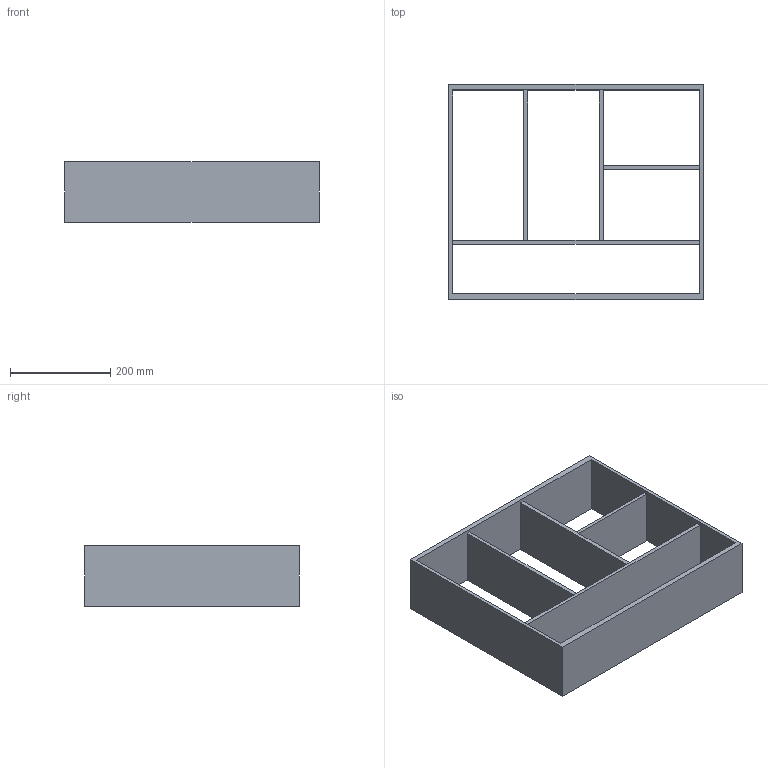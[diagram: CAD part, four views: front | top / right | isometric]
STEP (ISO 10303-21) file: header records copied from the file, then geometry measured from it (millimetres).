
FILE_DESCRIPTION (( 'STEP AP214' ), '1' );
FILE_NAME ('Vario Multi H120 NL450_B600_16 mm_Alu-Buche.step', '2010-10-08T09:47:27', ( 'grass' ), ( '' ), 'SwSTEP 2.0', 'SolidWorks 2010', '' );
FILE_SCHEMA (( 'AUTOMOTIVE_DESIGN' ));
Length unit declared in the file: millimetre
Products named in the file (1): Vario Multi H120 NL450_B600_16 mm_Alu-Buche
Bounding box: 508 x 429 x 120 mm (x, y, z)
Volume: 3292941.2 mm3; surface area: 781855 mm2
Topology: 1 solids, 1 shells, 29 faces, 80 edges, 52 vertices
Faces by surface type: plane 29
Entity records: 956 total; most frequent: CARTESIAN_POINT 162, ORIENTED_EDGE 160, DIRECTION 140, LINE 80, VECTOR 80, EDGE_CURVE 80, VERTEX_POINT 52, EDGE_LOOP 38
